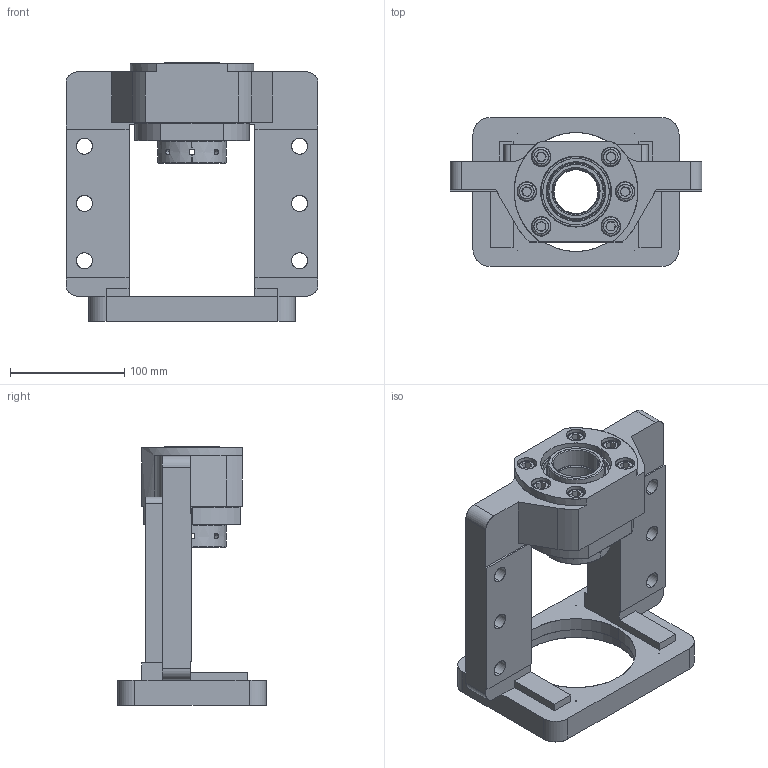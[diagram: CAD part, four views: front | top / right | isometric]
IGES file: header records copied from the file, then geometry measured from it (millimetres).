
Start section: SolidWorks IGES file using analytic representation for surfaces
Global section: file name: C:\Users\044\Desktop\快捷\MBCS40L-G.IGS,1; native system: 5HSolidWorks 2018; preprocessor: SolidWorks 2018; author: 044; date: 241021.150215; units: millimetre
Bounding box: 220 x 130 x 226 mm (x, y, z)
Surface area: 210835 mm2 (no closed solid volume)
Topology: 0 solids, 0 shells, 338 faces, 6154 edges, 6146 vertices
Faces by surface type: revolution 187, bspline 151
